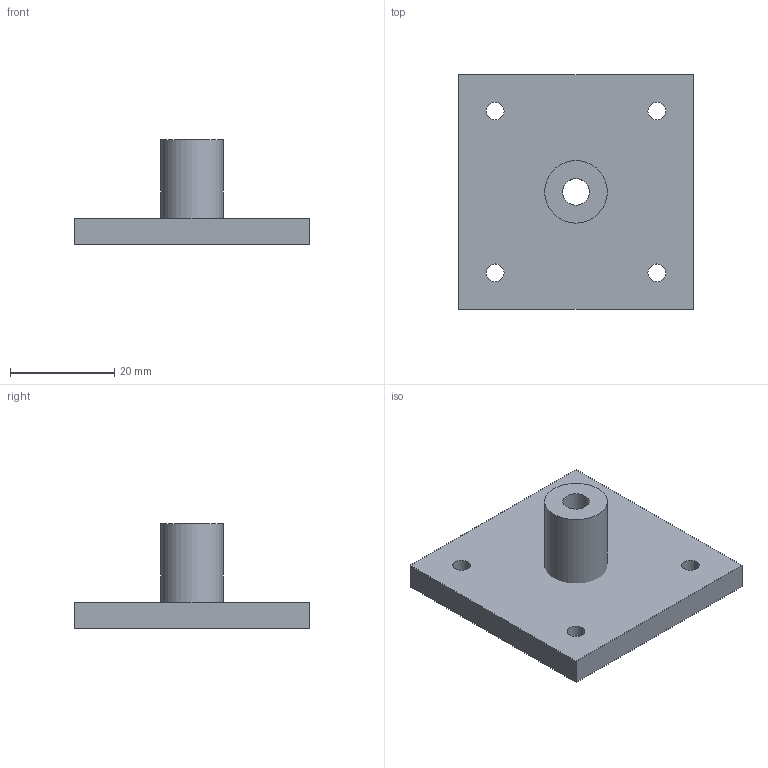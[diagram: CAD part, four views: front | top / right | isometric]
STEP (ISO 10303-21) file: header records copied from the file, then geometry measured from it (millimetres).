
FILE_DESCRIPTION(/* description */ (''),/* implementation_level */ '2;1');
FILE_NAME(/* name */ 'C:/Users/Jesus/Documents/Diseños_/Maquina_soalr/nema 17 suport v3.step',/* time_stamp */ '2018-05-28T16:52:45-05:00',/* author */ ('sinister_4440'),/* organization */ (''),/* preprocessor_version */ 'ST-DEVELOPER v17',/* originating_system */ 'Autodesk Translation Framework v7.1.0.215',/* authorisation */ '');
FILE_SCHEMA (('AUTOMOTIVE_DESIGN { 1 0 10303 214 3 1 1 }'));
Length unit declared in the file: millimetre
Products named in the file (1): nema 17 suport
Bounding box: 45 x 45 x 20 mm (x, y, z)
Volume: 11694.7 mm3; surface area: 6390 mm2
Topology: 2 solids, 2 shells, 15 faces, 33 edges, 22 vertices
Faces by surface type: plane 8, cylinder 7
Full cylindrical faces by diameter (mm): 3.4 x4, 5.1 x2, 12 x1
Entity records: 477 total; most frequent: DIRECTION 79, CARTESIAN_POINT 71, ORIENTED_EDGE 66, EDGE_CURVE 33, AXIS2_PLACEMENT_3D 30, EDGE_LOOP 27, VERTEX_POINT 22, LINE 19
